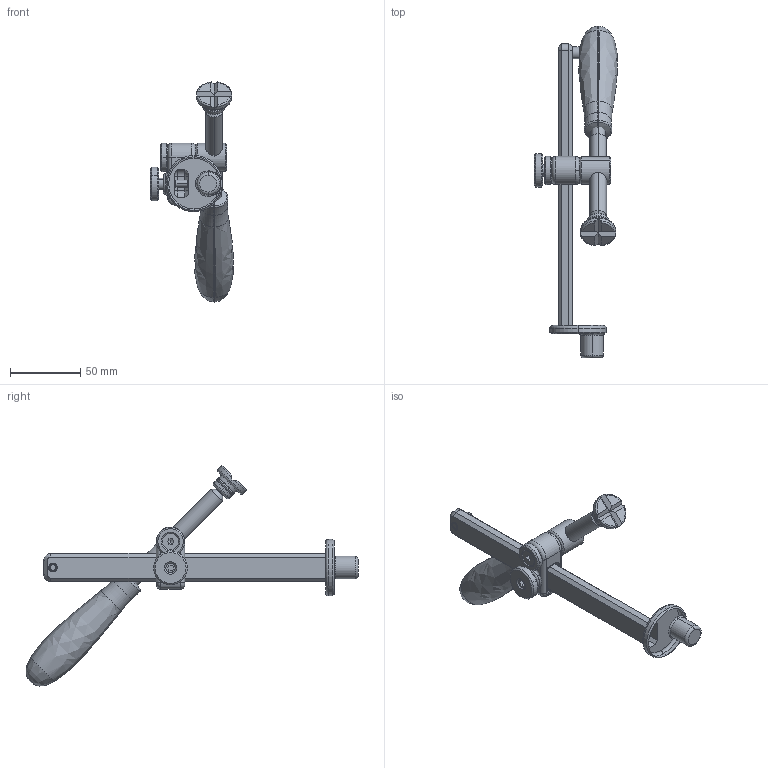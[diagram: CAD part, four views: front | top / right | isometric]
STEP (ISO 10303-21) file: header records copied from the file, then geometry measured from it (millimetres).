
FILE_DESCRIPTION (( 'STEP AP203' ), '1' );
FILE_NAME ('160630.STEP', '2020-07-09T09:48:45', ( '' ), ( '' ), 'SwSTEP 2.0', 'SolidWorks 2019', '' );
FILE_SCHEMA (( 'CONFIG_CONTROL_DESIGN' ));
Length unit declared in the file: millimetre
Products named in the file (19): 169109 Scheibe; 160656 Prisma f黵 Schraubzwingen_Tr12x3_Br乶iert; 160633 Vertikalstrebe 200_20x10; 160662 Handrad f黵 Gusskreuz_Br乶iert; O-ring DIN 3771 - 7x1.2_O-ring DIN 3771 - 7x1.8; DIN 7991 - M6 x 16 --- 16C_DIN 7991 - M6 x 16 --- 16C; Rad^160662 Handrad f黵 Gusskreuz; ISO 4762 - M5 x 10 - schwarz_ISO 4762 M5 x 10 --- 10N; Sprengring^160656 Prisma für Schraubzwingen_Tr12x3; DIN 913 - M8 x 16-C_DIN 913 - M8 x 16-C; 160630; 160634.1 Gewindespindel 90_Tr 12x3; 160617.2 Gusskreuz f黵 160630_Fl 20x13; 169108 Führungsspindel; O-Ring 11,8x1,8 DIN 3771; 160634_Griff_neu_19.6.12; Spindel^160634.1 Gewindespindel 90_Tr 12x3
Assembly tree (18 placements, depth 3):
  160630
    160633 Vertikalstrebe 200_20x10
      160633 Vertikalstrebe 200_20x10
      ISO 4762 - M5 x 10 - schwarz_ISO 4762 M5 x 10 --- 10N
    160617.2 Gusskreuz f黵 160630_Fl 20x13
    160634.1 Gewindespindel 90_Tr 12x3
      Spindel^160634.1 Gewindespindel 90_Tr 12x3
      160634_Griff_neu_19.6.12
    160662 Handrad f黵 Gusskreuz_Br乶iert
      Rad^160662 Handrad f黵 Gusskreuz
      DIN 913 - M8 x 16-C_DIN 913 - M8 x 16-C
    160656 Prisma f黵 Schraubzwingen_Tr12x3_Br乶iert
      160656 Prisma f黵 Schraubzwingen_Tr12x3_Br乶iert
      Sprengring^160656 Prisma für Schraubzwingen_Tr12x3
      O-Ring 11,8x1,8 DIN 3771
      O-ring DIN 3771 - 7x1.2_O-ring DIN 3771 - 7x1.8
    169108 Führungsspindel
    169109 Scheibe
    DIN 7991 - M6 x 16 --- 16C_DIN 7991 - M6 x 16 --- 16C
Bounding box: 59.04 x 235.57 x 156.12 mm (x, y, z)
Volume: 132374.8 mm3; surface area: 55617.8 mm2
Topology: 15 solids, 16 shells, 411 faces, 885 edges, 512 vertices
Faces by surface type: plane 122, cylinder 103, torus 92, cone 62, bspline 20, sphere 12
Entity records: 14484 total; most frequent: CARTESIAN_POINT 3428, DIRECTION 2108, ORIENTED_EDGE 1748, AXIS2_PLACEMENT_3D 875, EDGE_CURVE 874, VERTEX_POINT 509, CIRCLE 459, EDGE_LOOP 445
